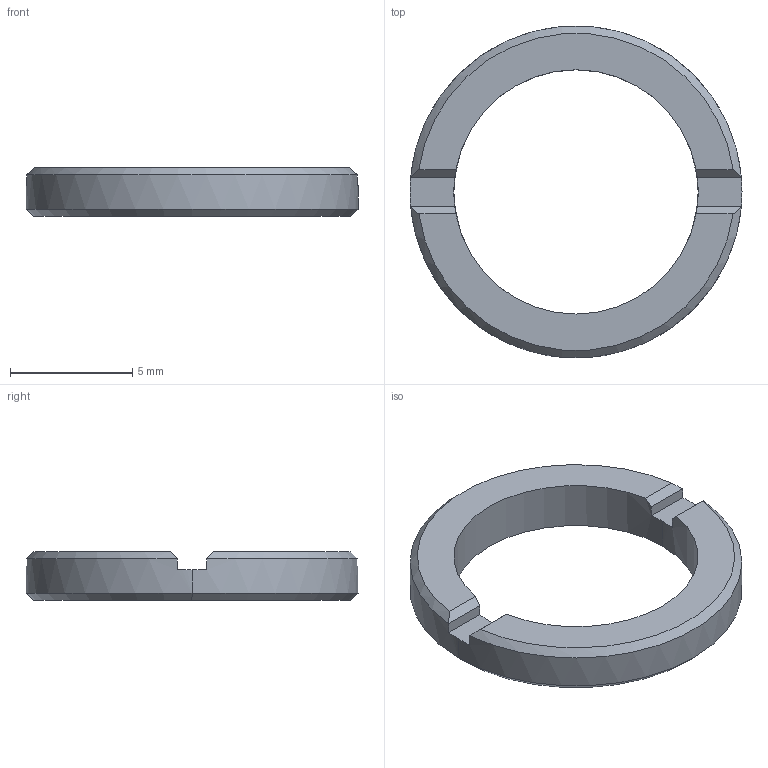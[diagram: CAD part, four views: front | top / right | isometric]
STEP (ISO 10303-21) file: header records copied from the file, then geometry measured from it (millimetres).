
FILE_DESCRIPTION (( 'STEP AP203' ), '1' );
FILE_NAME ('05RR.STEP', '2021-12-09T08:52:18', ( '¦K¬P' ), ( '' ), 'SwSTEP 2.0', 'SolidWorks 2019', '' );
FILE_SCHEMA (( 'CONFIG_CONTROL_DESIGN' ));
Length unit declared in the file: millimetre
Products named in the file (1): 05RR
Bounding box: 13.59 x 13.59 x 2 mm (x, y, z)
Volume: 125.8 mm3; surface area: 266.6 mm2
Topology: 1 solids, 1 shells, 21 faces, 54 edges, 34 vertices
Faces by surface type: plane 13, cone 4, cylinder 4
Entity records: 725 total; most frequent: CARTESIAN_POINT 134, DIRECTION 110, ORIENTED_EDGE 108, EDGE_CURVE 54, AXIS2_PLACEMENT_3D 42, VERTEX_POINT 34, LINE 26, VECTOR 26
